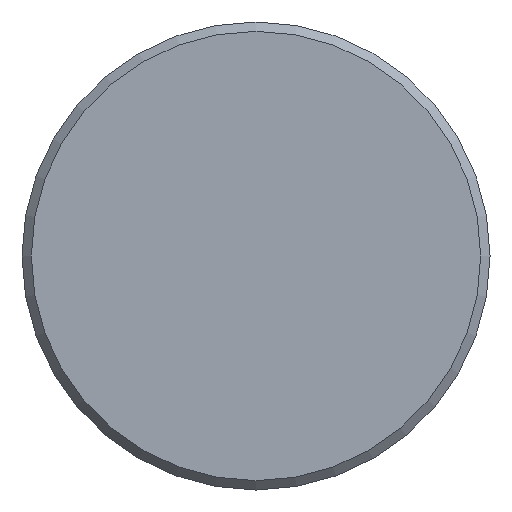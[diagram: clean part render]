
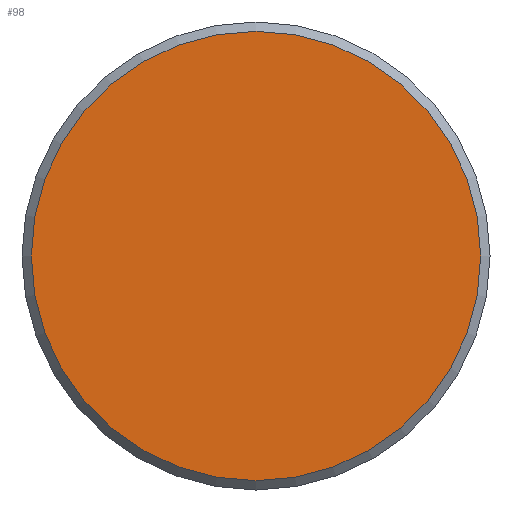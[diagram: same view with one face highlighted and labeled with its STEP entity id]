
A CAD part, front view. The second image highlights one B-rep face of the part: STEP entity #98.
In plain terms, the highlighted planar face has unit normal (0, -1, 0).
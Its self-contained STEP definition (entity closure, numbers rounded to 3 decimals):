
#16=PLANE('',#124);
#24=FACE_OUTER_BOUND('',#31,.T.);
#31=EDGE_LOOP('',(#84));
#47=CIRCLE('',#120,12.);
#54=VERTEX_POINT('',#172);
#62=EDGE_CURVE('',#54,#54,#47,.T.);
#84=ORIENTED_EDGE('',*,*,#62,.F.);
#98=ADVANCED_FACE('',(#24),#16,.F.);
#120=AXIS2_PLACEMENT_3D('',#173,#142,#143);
#124=AXIS2_PLACEMENT_3D('',#181,#152,#153);
#142=DIRECTION('center_axis',(0.,1.,0.));
#143=DIRECTION('ref_axis',(-1.,0.,0.));
#152=DIRECTION('center_axis',(0.,1.,0.));
#153=DIRECTION('ref_axis',(-1.,0.,0.));
#172=CARTESIAN_POINT('',(12.,-100.,0.));
#173=CARTESIAN_POINT('Origin',(0.,-100.,0.));
#181=CARTESIAN_POINT('Origin',(0.,-100.,0.));
